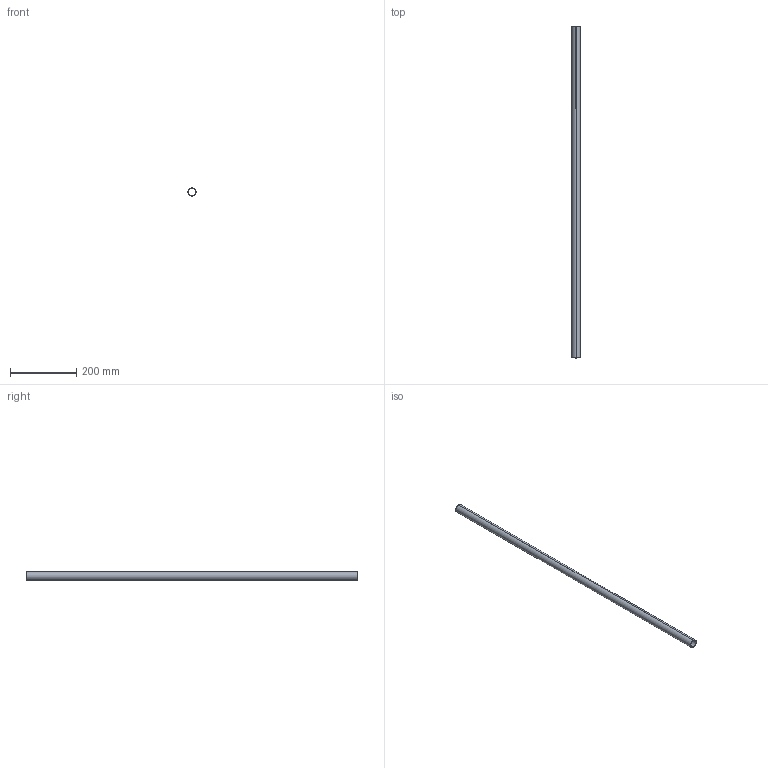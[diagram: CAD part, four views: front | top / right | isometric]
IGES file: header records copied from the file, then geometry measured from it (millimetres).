
Start section: SolidWorks IGES file using analytic representation for surfaces
Global section: file name: F:\GABRYSIA\MODELE 3D\_CAMELEON\KLOSZE I OPRAWY WWW\LASER_1000_8488_8487_8486_WWW\LASER_1000_8488_8487_8486.IGS; native system: SolidWorks 2017; preprocessor: SolidWorks 2017; author: Togambi; date: 200508.142424; units: millimetre
Bounding box: 25 x 1000 x 25 mm (x, y, z)
Surface area: 152788.3 mm2 (no closed solid volume)
Topology: 0 solids, 0 shells, 6 faces, 144 edges, 144 vertices
Faces by surface type: revolution 4, bspline 2
